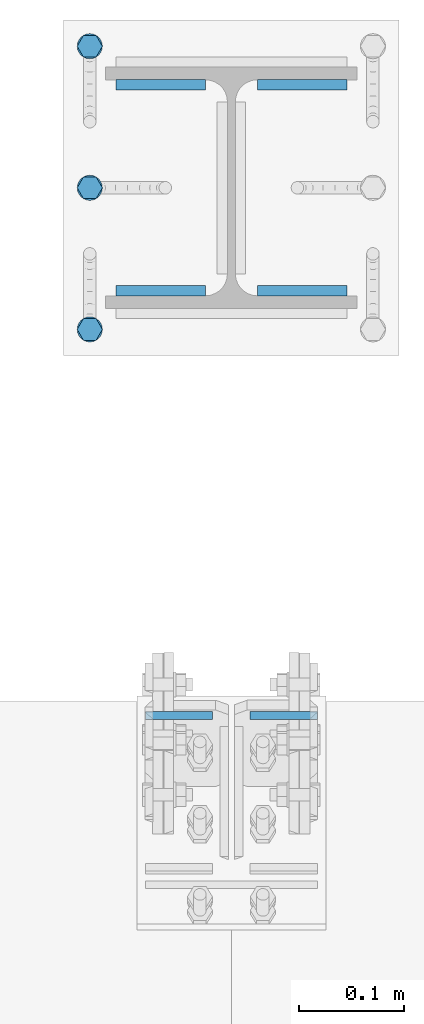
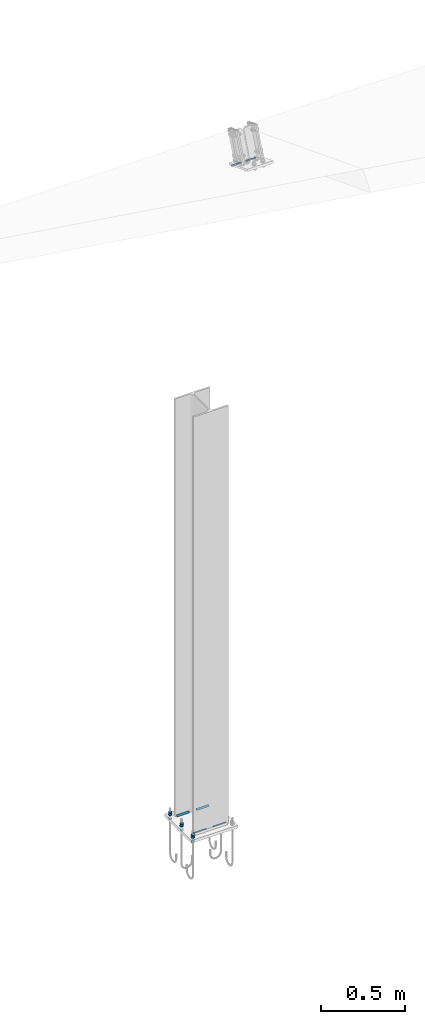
# One storey, part 50 of 72: 15 mechanical fasteners, 12 fasteners.
"""IFC4 building model written with IfcOpenShell, lengths in metres."""

from ifc_helpers import new_model, si_unit, frame, origin_with_axes, place, context, project, spatial, polyline, outline, extrude, type_object, element, save


model = new_model("IFC4")

# Units and contexts
model_context = context("Model", 3, precision=1e-05, world=origin_with_axes())
ifc_project = project(units=[si_unit("LENGTHUNIT", "METRE"), si_unit("AREAUNIT", "SQUARE_METRE"), si_unit("VOLUMEUNIT", "CUBIC_METRE"), si_unit("MASSUNIT", "GRAM", prefix="KILO"), si_unit("TIMEUNIT", "SECOND"), si_unit("PLANEANGLEUNIT", "RADIAN"), si_unit("SOLIDANGLEUNIT", "STERADIAN"), si_unit("THERMODYNAMICTEMPERATUREUNIT", "DEGREE_CELSIUS")], contexts=[model_context])

# Site, building, storey
placement_1 = place(None, origin_with_axes())
site = spatial("IfcSite", under=ifc_project, at=placement_1, Name="Italia", CompositionType="ELEMENT")
building = spatial("IfcBuilding", under=site, at=placement_1, Name="Uffici", CompositionType="ELEMENT")
storey = spatial("IfcBuildingStorey", under=building, at=placement_1, Name="Storey 0", CompositionType="ELEMENT", Elevation=0.0)

# Fasteners
fastener_type_1 = type_object("IfcFastenerType", Name="Collegamenti 0001_0101 0002_0102 0003_0103 0004_0104 0005_0105 0011_0111 0012_0112 0013_0113 0014_0114 0015_0115", PredefinedType="WELD")
placement_2 = place(placement_1, origin_with_axes())
fastener_1_placement = place(placement_2, origin_with_axes())
element("IfcFastener", 1, at=fastener_1_placement, inside=storey, type_object=fastener_type_1, Name="Collegamenti 0001_0101 0002_0102 0003_0103 0004_0104 0005_0105 0011_0111 0012_0112 0013_0113 0014_0114 0015_0115", context=model_context, shape_type="SweptSolid", body=[
    extrude(outline(polyline([(0.0, 0.0), (0.00986814, 0.0101734), (0.00986814, 0.0), (0.0, 0.0)])), frame((6.7797, 5.48318, 0.01995), z_axis=(1.0, 0.0, 0.0), x_axis=(0.0, 1.0, 0.0)), (0.0, 0.0, 1.0), 0.08535),
])
fastener_type_2 = type_object("IfcFastenerType", Name="Collegamenti 0001_0101 0002_0102 0003_0103 0004_0104 0005_0105 0011_0111 0012_0112 0013_0113 0014_0114 0015_0115", PredefinedType="WELD")
fastener_2_placement = place(placement_2, origin_with_axes())
element("IfcFastener", 2, at=fastener_2_placement, inside=storey, type_object=fastener_type_2, Name="Collegamenti 0001_0101 0002_0102 0003_0103 0004_0104 0005_0105 0011_0111 0012_0112 0013_0113 0014_0114 0015_0115", context=model_context, shape_type="SweptSolid", body=[
    extrude(outline(polyline([(0.0, 0.0), (0.00986814, 0.0101734), (0.00986814, 0.0), (0.0, 0.0)])), frame((6.86505, 5.29682, 0.01995), z_axis=(-1.0, 0.0, 0.0), x_axis=(0.0, -1.0, 0.0)), (0.0, 0.0, 1.0), 0.08535),
])
fastener_type_3 = type_object("IfcFastenerType", Name="Collegamenti 0001_0101 0002_0102 0003_0103 0004_0104 0005_0105 0011_0111 0012_0112 0013_0113 0014_0114 0015_0115", PredefinedType="WELD")
fastener_3_placement = place(placement_2, origin_with_axes())
element("IfcFastener", 3, at=fastener_3_placement, inside=storey, type_object=fastener_type_3, Name="Collegamenti 0001_0101 0002_0102 0003_0103 0004_0104 0005_0105 0011_0111 0012_0112 0013_0113 0014_0114 0015_0115", context=model_context, shape_type="SweptSolid", body=[
    extrude(outline(polyline([(0.0, 0.0), (0.00986814, 0.0101734), (0.00986814, 0.0), (0.0, 0.0)])), frame((6.7303, 5.29682, 0.01995), z_axis=(-1.0, 0.0, 0.0), x_axis=(0.0, -1.0, 0.0)), (0.0, 0.0, 1.0), 0.08535),
])
fastener_type_4 = type_object("IfcFastenerType", Name="Collegamenti 0001_0101 0002_0102 0003_0103 0004_0104 0005_0105 0011_0111 0012_0112 0013_0113 0014_0114 0015_0115", PredefinedType="WELD")
fastener_4_placement = place(placement_2, origin_with_axes())
element("IfcFastener", 4, at=fastener_4_placement, inside=storey, type_object=fastener_type_4, Name="Collegamenti 0001_0101 0002_0102 0003_0103 0004_0104 0005_0105 0011_0111 0012_0112 0013_0113 0014_0114 0015_0115", context=model_context, shape_type="SweptSolid", body=[
    extrude(outline(polyline([(0.0, 0.0), (0.00986814, 0.0101734), (0.00986814, 0.0), (0.0, 0.0)])), frame((6.64495, 5.48318, 0.01995), z_axis=(1.0, 0.0, 0.0), x_axis=(0.0, 1.0, 0.0)), (0.0, 0.0, 1.0), 0.08535),
])
fastener_type_5 = type_object("IfcFastenerType", Name="Collegamenti 0001_0101 0002_0102 0003_0103 0004_0104 0005_0105 0011_0111 0012_0112 0013_0113 0014_0114 0015_0115", PredefinedType="WELD")
fastener_5_placement = place(placement_2, origin_with_axes())
element("IfcFastener", 5, at=fastener_5_placement, inside=storey, type_object=fastener_type_5, Name="Collegamenti 0001_0101 0002_0102 0003_0103 0004_0104 0005_0105 0011_0111 0012_0112 0013_0113 0014_0114 0015_0115", context=model_context, shape_type="SweptSolid", body=[
    extrude(outline(polyline([(0.0, 0.0), (0.00986814, 0.0101734), (0.00986814, 0.0), (0.0, 0.0)])), frame((6.7797, 5.48318, 0.01995), z_axis=(1.0, 0.0, 0.0), x_axis=(0.0, 1.0, 0.0)), (0.0, 0.0, 1.0), 0.08535),
])
fastener_type_6 = type_object("IfcFastenerType", Name="Collegamenti 0001_0101 0002_0102 0003_0103 0004_0104 0005_0105 0011_0111 0012_0112 0013_0113 0014_0114 0015_0115", PredefinedType="WELD")
fastener_6_placement = place(placement_2, origin_with_axes())
element("IfcFastener", 6, at=fastener_6_placement, inside=storey, type_object=fastener_type_6, Name="Collegamenti 0001_0101 0002_0102 0003_0103 0004_0104 0005_0105 0011_0111 0012_0112 0013_0113 0014_0114 0015_0115", context=model_context, shape_type="SweptSolid", body=[
    extrude(outline(polyline([(0.0, 0.0), (0.00986814, 0.0101734), (0.00986814, 0.0), (0.0, 0.0)])), frame((6.86505, 5.29682, 0.01995), z_axis=(-1.0, 0.0, 0.0), x_axis=(0.0, -1.0, 0.0)), (0.0, 0.0, 1.0), 0.08535),
])
fastener_type_7 = type_object("IfcFastenerType", Name="Collegamenti 0001_0101 0002_0102 0003_0103 0004_0104 0005_0105 0011_0111 0012_0112 0013_0113 0014_0114 0015_0115", PredefinedType="WELD")
fastener_7_placement = place(placement_2, origin_with_axes())
element("IfcFastener", 7, at=fastener_7_placement, inside=storey, type_object=fastener_type_7, Name="Collegamenti 0001_0101 0002_0102 0003_0103 0004_0104 0005_0105 0011_0111 0012_0112 0013_0113 0014_0114 0015_0115", context=model_context, shape_type="SweptSolid", body=[
    extrude(outline(polyline([(0.0, 0.0), (0.00986814, 0.0101734), (0.00986814, 0.0), (0.0, 0.0)])), frame((6.7303, 5.29682, 0.01995), z_axis=(-1.0, 0.0, 0.0), x_axis=(0.0, -1.0, 0.0)), (0.0, 0.0, 1.0), 0.08535),
])
fastener_type_8 = type_object("IfcFastenerType", Name="Collegamenti 0001_0101 0002_0102 0003_0103 0004_0104 0005_0105 0011_0111 0012_0112 0013_0113 0014_0114 0015_0115", PredefinedType="WELD")
fastener_8_placement = place(placement_2, origin_with_axes())
element("IfcFastener", 8, at=fastener_8_placement, inside=storey, type_object=fastener_type_8, Name="Collegamenti 0001_0101 0002_0102 0003_0103 0004_0104 0005_0105 0011_0111 0012_0112 0013_0113 0014_0114 0015_0115", context=model_context, shape_type="SweptSolid", body=[
    extrude(outline(polyline([(0.0, 0.0), (0.00986814, 0.0101734), (0.00986814, 0.0), (0.0, 0.0)])), frame((6.64495, 5.48318, 0.01995), z_axis=(1.0, 0.0, 0.0), x_axis=(0.0, 1.0, 0.0)), (0.0, 0.0, 1.0), 0.08535),
])

# Mechanical fasteners
mechanical_fastener_type_1 = type_object("IfcMechanicalFastenerType", Name="Collegamenti 0001_0101 0002_0102 0003_0103 0004_0104 0005_0105 0011_0111 0012_0112 0013_0113 0014_0114 0015_0115", PredefinedType="BOLT")
mechanical_fastener_1_placement = place(placement_2, origin_with_axes())
element("IfcMechanicalFastener", 9, at=mechanical_fastener_1_placement, inside=storey, type_object=mechanical_fastener_type_1, Name="Collegamenti 0001_0101 0002_0102 0003_0103 0004_0104 0005_0105 0011_0111 0012_0112 0013_0113 0014_0114 0015_0115", NominalDiameter=0.0119996, context=model_context, shape_type="SweptSolid", body=[
    extrude(outline(polyline([(0.0, 0.0), (0.0, 0.0119996), (0.0103922, 0.0179996), (0.0207849, 0.0119996), (0.0207849, 0.0), (0.0103922, -0.00600004), (0.0, 0.0)])), frame((6.626, 5.24461, 0.022), z_axis=(0.0, 0.0, 1.0), x_axis=(0.0, 1.0, 0.0)), (0.0, 0.0, 1.0), 0.0096),
])
mechanical_fastener_type_2 = type_object("IfcMechanicalFastenerType", Name="Collegamenti 0001_0101 0002_0102 0003_0103 0004_0104 0005_0105 0011_0111 0012_0112 0013_0113 0014_0114 0015_0115", PredefinedType="BOLT")
mechanical_fastener_2_placement = place(placement_2, origin_with_axes())
element("IfcMechanicalFastener", 10, at=mechanical_fastener_2_placement, inside=storey, type_object=mechanical_fastener_type_2, Name="Collegamenti 0001_0101 0002_0102 0003_0103 0004_0104 0005_0105 0011_0111 0012_0112 0013_0113 0014_0114 0015_0115", NominalDiameter=0.0119996, context=model_context, shape_type="SweptSolid", body=[
    extrude(outline(polyline([(0.0, 0.0), (0.0, 0.0119996), (0.0103922, 0.0179996), (0.0207849, 0.0119996), (0.0207849, 0.0), (0.0103922, -0.00600004), (0.0, 0.0)])), frame((6.626, 5.24461, 0.0316), z_axis=(0.0, 0.0, 1.0), x_axis=(0.0, 1.0, 0.0)), (0.0, 0.0, 1.0), 0.0096),
])
mechanical_fastener_type_3 = type_object("IfcMechanicalFastenerType", Name="Collegamenti 0001_0101 0002_0102 0003_0103 0004_0104 0005_0105 0011_0111 0012_0112 0013_0113 0014_0114 0015_0115", PredefinedType="BOLT")
mechanical_fastener_3_placement = place(placement_2, origin_with_axes())
element("IfcMechanicalFastener", 11, at=mechanical_fastener_3_placement, inside=storey, type_object=mechanical_fastener_type_3, Name="Collegamenti 0001_0101 0002_0102 0003_0103 0004_0104 0005_0105 0011_0111 0012_0112 0013_0113 0014_0114 0015_0115", NominalDiameter=0.0119996, context=model_context, shape_type="SweptSolid", body=[
    extrude(outline(polyline([(0.0, 0.0), (0.0, 0.0119996), (0.0103922, 0.0179996), (0.0207849, 0.0119996), (0.0207849, 0.0), (0.0103922, -0.00600004), (0.0, 0.0)])), frame((6.626, 5.24461, -0.0116), z_axis=(0.0, 0.0, 1.0), x_axis=(0.0, 1.0, 0.0)), (0.0, 0.0, 1.0), 0.0096),
])
mechanical_fastener_type_4 = type_object("IfcMechanicalFastenerType", Name="Collegamenti 0001_0101 0002_0102 0003_0103 0004_0104 0005_0105 0011_0111 0012_0112 0013_0113 0014_0114 0015_0115", PredefinedType="BOLT")
mechanical_fastener_4_placement = place(placement_2, origin_with_axes())
element("IfcMechanicalFastener", 12, at=mechanical_fastener_4_placement, inside=storey, type_object=mechanical_fastener_type_4, Name="Collegamenti 0001_0101 0002_0102 0003_0103 0004_0104 0005_0105 0011_0111 0012_0112 0013_0113 0014_0114 0015_0115", NominalDiameter=0.024, context=model_context, shape_type="SweptSolid", body=[
    extrude(outline(polyline([(0.0, 0.0), (-0.000409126, -0.00310564), (-0.00160789, -0.00600004), (-0.00351477, -0.00848532), (-0.00600004, -0.0103922), (-0.00889444, -0.011591), (-0.0120001, -0.0120001), (-0.0151057, -0.011591), (-0.0180001, -0.0103922), (-0.0204854, -0.00848532), (-0.0223923, -0.00600004), (-0.023591, -0.00310564), (-0.0240002, 0.0), (-0.023591, 0.00310564), (-0.0223923, 0.00600004), (-0.0204854, 0.00848532), (-0.0180001, 0.0103922), (-0.0151057, 0.011591), (-0.0120001, 0.0120001), (-0.00889444, 0.011591), (-0.00600004, 0.0103922), (-0.00351477, 0.00848532), (-0.00160789, 0.00600004), (-0.000409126, 0.00310564), (0.0, 0.0)])), frame((6.62, 5.267, 0.02), z_axis=(0.0, 0.0, 1.0), x_axis=(0.0, 1.0, 0.0)), (0.0, 0.0, 1.0), 0.002),
])
mechanical_fastener_type_5 = type_object("IfcMechanicalFastenerType", Name="Collegamenti 0001_0101 0002_0102 0003_0103 0004_0104 0005_0105 0011_0111 0012_0112 0013_0113 0014_0114 0015_0115", PredefinedType="BOLT")
mechanical_fastener_5_placement = place(placement_2, origin_with_axes())
element("IfcMechanicalFastener", 13, at=mechanical_fastener_5_placement, inside=storey, type_object=mechanical_fastener_type_5, Name="Collegamenti 0001_0101 0002_0102 0003_0103 0004_0104 0005_0105 0011_0111 0012_0112 0013_0113 0014_0114 0015_0115", NominalDiameter=0.024, context=model_context, shape_type="SweptSolid", body=[
    extrude(outline(polyline([(0.0, 0.0), (-0.000409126, -0.00310564), (-0.00160789, -0.00600004), (-0.00351477, -0.00848532), (-0.00600004, -0.0103922), (-0.00889444, -0.011591), (-0.0120001, -0.0120001), (-0.0151057, -0.011591), (-0.0180001, -0.0103922), (-0.0204854, -0.00848532), (-0.0223923, -0.00600004), (-0.023591, -0.00310564), (-0.0240002, 0.0), (-0.023591, 0.00310564), (-0.0223923, 0.00600004), (-0.0204854, 0.00848532), (-0.0180001, 0.0103922), (-0.0151057, 0.011591), (-0.0120001, 0.0120001), (-0.00889444, 0.011591), (-0.00600004, 0.0103922), (-0.00351477, 0.00848532), (-0.00160789, 0.00600004), (-0.000409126, 0.00310564), (0.0, 0.0)])), frame((6.62, 5.267, -0.002), z_axis=(0.0, 0.0, 1.0), x_axis=(0.0, 1.0, 0.0)), (0.0, 0.0, 1.0), 0.002),
])
mechanical_fastener_type_6 = type_object("IfcMechanicalFastenerType", Name="Collegamenti 0001_0101 0002_0102 0003_0103 0004_0104 0005_0105 0011_0111 0012_0112 0013_0113 0014_0114 0015_0115", PredefinedType="BOLT")
mechanical_fastener_6_placement = place(placement_2, origin_with_axes())
element("IfcMechanicalFastener", 14, at=mechanical_fastener_6_placement, inside=storey, type_object=mechanical_fastener_type_6, Name="Collegamenti 0001_0101 0002_0102 0003_0103 0004_0104 0005_0105 0011_0111 0012_0112 0013_0113 0014_0114 0015_0115", NominalDiameter=0.0119996, context=model_context, shape_type="SweptSolid", body=[
    extrude(outline(polyline([(0.0, 0.0), (0.0, 0.0119996), (0.0103922, 0.0179996), (0.0207844, 0.0119996), (0.0207844, 0.0), (0.0103922, -0.00600004), (0.0, 0.0)])), frame((6.626, 5.37961, 0.022), z_axis=(0.0, 0.0, 1.0), x_axis=(0.0, 1.0, 0.0)), (0.0, 0.0, 1.0), 0.0096),
])
mechanical_fastener_type_7 = type_object("IfcMechanicalFastenerType", Name="Collegamenti 0001_0101 0002_0102 0003_0103 0004_0104 0005_0105 0011_0111 0012_0112 0013_0113 0014_0114 0015_0115", PredefinedType="BOLT")
mechanical_fastener_7_placement = place(placement_2, origin_with_axes())
element("IfcMechanicalFastener", 15, at=mechanical_fastener_7_placement, inside=storey, type_object=mechanical_fastener_type_7, Name="Collegamenti 0001_0101 0002_0102 0003_0103 0004_0104 0005_0105 0011_0111 0012_0112 0013_0113 0014_0114 0015_0115", NominalDiameter=0.0119996, context=model_context, shape_type="SweptSolid", body=[
    extrude(outline(polyline([(0.0, 0.0), (0.0, 0.0119996), (0.0103922, 0.0179996), (0.0207844, 0.0119996), (0.0207844, 0.0), (0.0103922, -0.00600004), (0.0, 0.0)])), frame((6.626, 5.37961, 0.0316), z_axis=(0.0, 0.0, 1.0), x_axis=(0.0, 1.0, 0.0)), (0.0, 0.0, 1.0), 0.0096),
])
mechanical_fastener_type_8 = type_object("IfcMechanicalFastenerType", Name="Collegamenti 0001_0101 0002_0102 0003_0103 0004_0104 0005_0105 0011_0111 0012_0112 0013_0113 0014_0114 0015_0115", PredefinedType="BOLT")
mechanical_fastener_8_placement = place(placement_2, origin_with_axes())
element("IfcMechanicalFastener", 16, at=mechanical_fastener_8_placement, inside=storey, type_object=mechanical_fastener_type_8, Name="Collegamenti 0001_0101 0002_0102 0003_0103 0004_0104 0005_0105 0011_0111 0012_0112 0013_0113 0014_0114 0015_0115", NominalDiameter=0.0119996, context=model_context, shape_type="SweptSolid", body=[
    extrude(outline(polyline([(0.0, 0.0), (0.0, 0.0119996), (0.0103922, 0.0179996), (0.0207844, 0.0119996), (0.0207844, 0.0), (0.0103922, -0.00600004), (0.0, 0.0)])), frame((6.626, 5.37961, -0.0116), z_axis=(0.0, 0.0, 1.0), x_axis=(0.0, 1.0, 0.0)), (0.0, 0.0, 1.0), 0.0096),
])
mechanical_fastener_type_9 = type_object("IfcMechanicalFastenerType", Name="Collegamenti 0001_0101 0002_0102 0003_0103 0004_0104 0005_0105 0011_0111 0012_0112 0013_0113 0014_0114 0015_0115", PredefinedType="BOLT")
mechanical_fastener_9_placement = place(placement_2, origin_with_axes())
element("IfcMechanicalFastener", 17, at=mechanical_fastener_9_placement, inside=storey, type_object=mechanical_fastener_type_9, Name="Collegamenti 0001_0101 0002_0102 0003_0103 0004_0104 0005_0105 0011_0111 0012_0112 0013_0113 0014_0114 0015_0115", NominalDiameter=0.024, context=model_context, shape_type="SweptSolid", body=[
    extrude(outline(polyline([(0.0, 0.0), (-0.000409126, -0.00310564), (-0.00160789, -0.00600004), (-0.00351477, -0.00848532), (-0.00600004, -0.0103922), (-0.00889444, -0.011591), (-0.0120001, -0.0120001), (-0.0151057, -0.011591), (-0.0180001, -0.0103922), (-0.0204854, -0.00848532), (-0.0223923, -0.00600004), (-0.023591, -0.00310564), (-0.0240002, 0.0), (-0.023591, 0.00310564), (-0.0223923, 0.00600004), (-0.0204854, 0.00848532), (-0.0180001, 0.0103922), (-0.0151057, 0.011591), (-0.0120001, 0.0120001), (-0.00889444, 0.011591), (-0.00600004, 0.0103922), (-0.00351477, 0.00848532), (-0.00160789, 0.00600004), (-0.000409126, 0.00310564), (0.0, 0.0)])), frame((6.62, 5.402, 0.02), z_axis=(0.0, 0.0, 1.0), x_axis=(0.0, 1.0, 0.0)), (0.0, 0.0, 1.0), 0.002),
])
mechanical_fastener_type_10 = type_object("IfcMechanicalFastenerType", Name="Collegamenti 0001_0101 0002_0102 0003_0103 0004_0104 0005_0105 0011_0111 0012_0112 0013_0113 0014_0114 0015_0115", PredefinedType="BOLT")
mechanical_fastener_10_placement = place(placement_2, origin_with_axes())
element("IfcMechanicalFastener", 18, at=mechanical_fastener_10_placement, inside=storey, type_object=mechanical_fastener_type_10, Name="Collegamenti 0001_0101 0002_0102 0003_0103 0004_0104 0005_0105 0011_0111 0012_0112 0013_0113 0014_0114 0015_0115", NominalDiameter=0.024, context=model_context, shape_type="SweptSolid", body=[
    extrude(outline(polyline([(0.0, 0.0), (-0.000409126, -0.00310564), (-0.00160789, -0.00600004), (-0.00351477, -0.00848532), (-0.00600004, -0.0103922), (-0.00889444, -0.011591), (-0.0120001, -0.0120001), (-0.0151057, -0.011591), (-0.0180001, -0.0103922), (-0.0204854, -0.00848532), (-0.0223923, -0.00600004), (-0.023591, -0.00310564), (-0.0240002, 0.0), (-0.023591, 0.00310564), (-0.0223923, 0.00600004), (-0.0204854, 0.00848532), (-0.0180001, 0.0103922), (-0.0151057, 0.011591), (-0.0120001, 0.0120001), (-0.00889444, 0.011591), (-0.00600004, 0.0103922), (-0.00351477, 0.00848532), (-0.00160789, 0.00600004), (-0.000409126, 0.00310564), (0.0, 0.0)])), frame((6.62, 5.402, -0.002), z_axis=(0.0, 0.0, 1.0), x_axis=(0.0, 1.0, 0.0)), (0.0, 0.0, 1.0), 0.002),
])
mechanical_fastener_type_11 = type_object("IfcMechanicalFastenerType", Name="Collegamenti 0001_0101 0002_0102 0003_0103 0004_0104 0005_0105 0011_0111 0012_0112 0013_0113 0014_0114 0015_0115", PredefinedType="BOLT")
mechanical_fastener_11_placement = place(placement_2, origin_with_axes())
element("IfcMechanicalFastener", 19, at=mechanical_fastener_11_placement, inside=storey, type_object=mechanical_fastener_type_11, Name="Collegamenti 0001_0101 0002_0102 0003_0103 0004_0104 0005_0105 0011_0111 0012_0112 0013_0113 0014_0114 0015_0115", NominalDiameter=0.0119996, context=model_context, shape_type="SweptSolid", body=[
    extrude(outline(polyline([(0.0, 0.0), (0.0, 0.0119996), (0.0103927, 0.0179996), (0.0207849, 0.0119996), (0.0207849, 0.0), (0.0103927, -0.00600004), (0.0, 0.0)])), frame((6.626, 5.51461, 0.022), z_axis=(0.0, 0.0, 1.0), x_axis=(0.0, 1.0, 0.0)), (0.0, 0.0, 1.0), 0.0096),
])
mechanical_fastener_type_12 = type_object("IfcMechanicalFastenerType", Name="Collegamenti 0001_0101 0002_0102 0003_0103 0004_0104 0005_0105 0011_0111 0012_0112 0013_0113 0014_0114 0015_0115", PredefinedType="BOLT")
mechanical_fastener_12_placement = place(placement_2, origin_with_axes())
element("IfcMechanicalFastener", 20, at=mechanical_fastener_12_placement, inside=storey, type_object=mechanical_fastener_type_12, Name="Collegamenti 0001_0101 0002_0102 0003_0103 0004_0104 0005_0105 0011_0111 0012_0112 0013_0113 0014_0114 0015_0115", NominalDiameter=0.0119996, context=model_context, shape_type="SweptSolid", body=[
    extrude(outline(polyline([(0.0, 0.0), (0.0, 0.0119996), (0.0103927, 0.0179996), (0.0207849, 0.0119996), (0.0207849, 0.0), (0.0103927, -0.00600004), (0.0, 0.0)])), frame((6.626, 5.51461, 0.0316), z_axis=(0.0, 0.0, 1.0), x_axis=(0.0, 1.0, 0.0)), (0.0, 0.0, 1.0), 0.0096),
])
mechanical_fastener_type_13 = type_object("IfcMechanicalFastenerType", Name="Collegamenti 0001_0101 0002_0102 0003_0103 0004_0104 0005_0105 0011_0111 0012_0112 0013_0113 0014_0114 0015_0115", PredefinedType="BOLT")
mechanical_fastener_13_placement = place(placement_2, origin_with_axes())
element("IfcMechanicalFastener", 21, at=mechanical_fastener_13_placement, inside=storey, type_object=mechanical_fastener_type_13, Name="Collegamenti 0001_0101 0002_0102 0003_0103 0004_0104 0005_0105 0011_0111 0012_0112 0013_0113 0014_0114 0015_0115", NominalDiameter=0.0119996, context=model_context, shape_type="SweptSolid", body=[
    extrude(outline(polyline([(0.0, 0.0), (0.0, 0.0119996), (0.0103927, 0.0179996), (0.0207849, 0.0119996), (0.0207849, 0.0), (0.0103927, -0.00600004), (0.0, 0.0)])), frame((6.626, 5.51461, -0.0116), z_axis=(0.0, 0.0, 1.0), x_axis=(0.0, 1.0, 0.0)), (0.0, 0.0, 1.0), 0.0096),
])
mechanical_fastener_type_14 = type_object("IfcMechanicalFastenerType", Name="Collegamenti 0001_0101 0002_0102 0003_0103 0004_0104 0005_0105 0011_0111 0012_0112 0013_0113 0014_0114 0015_0115", PredefinedType="BOLT")
mechanical_fastener_14_placement = place(placement_2, origin_with_axes())
element("IfcMechanicalFastener", 22, at=mechanical_fastener_14_placement, inside=storey, type_object=mechanical_fastener_type_14, Name="Collegamenti 0001_0101 0002_0102 0003_0103 0004_0104 0005_0105 0011_0111 0012_0112 0013_0113 0014_0114 0015_0115", NominalDiameter=0.024, context=model_context, shape_type="SweptSolid", body=[
    extrude(outline(polyline([(0.0, 0.0), (-0.000409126, -0.00310564), (-0.00160789, -0.00600004), (-0.00351477, -0.00848532), (-0.00600004, -0.0103922), (-0.00889444, -0.011591), (-0.0120001, -0.0120001), (-0.0151057, -0.011591), (-0.0180001, -0.0103922), (-0.0204854, -0.00848532), (-0.0223923, -0.00600004), (-0.023591, -0.00310564), (-0.0240002, 0.0), (-0.023591, 0.00310564), (-0.0223923, 0.00600004), (-0.0204854, 0.00848532), (-0.0180001, 0.0103922), (-0.0151057, 0.011591), (-0.0120001, 0.0120001), (-0.00889444, 0.011591), (-0.00600004, 0.0103922), (-0.00351477, 0.00848532), (-0.00160789, 0.00600004), (-0.000409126, 0.00310564), (0.0, 0.0)])), frame((6.62, 5.537, 0.02), z_axis=(0.0, 0.0, 1.0), x_axis=(0.0, 1.0, 0.0)), (0.0, 0.0, 1.0), 0.002),
])
mechanical_fastener_type_15 = type_object("IfcMechanicalFastenerType", Name="Collegamenti 0001_0101 0002_0102 0003_0103 0004_0104 0005_0105 0011_0111 0012_0112 0013_0113 0014_0114 0015_0115", PredefinedType="BOLT")
mechanical_fastener_15_placement = place(placement_2, origin_with_axes())
element("IfcMechanicalFastener", 23, at=mechanical_fastener_15_placement, inside=storey, type_object=mechanical_fastener_type_15, Name="Collegamenti 0001_0101 0002_0102 0003_0103 0004_0104 0005_0105 0011_0111 0012_0112 0013_0113 0014_0114 0015_0115", NominalDiameter=0.024, context=model_context, shape_type="SweptSolid", body=[
    extrude(outline(polyline([(0.0, 0.0), (-0.000409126, -0.00310564), (-0.00160789, -0.00600004), (-0.00351477, -0.00848532), (-0.00600004, -0.0103922), (-0.00889444, -0.011591), (-0.0120001, -0.0120001), (-0.0151057, -0.011591), (-0.0180001, -0.0103922), (-0.0204854, -0.00848532), (-0.0223923, -0.00600004), (-0.023591, -0.00310564), (-0.0240002, 0.0), (-0.023591, 0.00310564), (-0.0223923, 0.00600004), (-0.0204854, 0.00848532), (-0.0180001, 0.0103922), (-0.0151057, 0.011591), (-0.0120001, 0.0120001), (-0.00889444, 0.011591), (-0.00600004, 0.0103922), (-0.00351477, 0.00848532), (-0.00160789, 0.00600004), (-0.000409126, 0.00310564), (0.0, 0.0)])), frame((6.62, 5.537, -0.002), z_axis=(0.0, 0.0, 1.0), x_axis=(0.0, 1.0, 0.0)), (0.0, 0.0, 1.0), 0.002),
])

# Fasteners
fastener_type_9 = type_object("IfcFastenerType", Name="Collegamento 0208_0108", PredefinedType="WELD")
fastener_9_placement = place(placement_2, origin_with_axes())
element("IfcFastener", 24, at=fastener_9_placement, inside=storey, type_object=fastener_type_9, Name="Collegamento 0208_0108", context=model_context, shape_type="SweptSolid", body=[
    extrude(outline(polyline([(0.0, 0.0), (-0.00443697, -0.0104866), (-0.00739193, -0.00286627), (0.0, 0.0)])), frame((6.83705, 4.88317, 5.09453), z_axis=(-1.0, 0.0, 0.0), x_axis=(0.0, -1.0, 0.0)), (0.0, 0.0, 1.0), 0.0641007),
])
fastener_type_10 = type_object("IfcFastenerType", Name="Collegamento 0208_0108", PredefinedType="WELD")
fastener_10_placement = place(placement_2, origin_with_axes())
element("IfcFastener", 25, at=fastener_10_placement, inside=storey, type_object=fastener_type_10, Name="Collegamento 0208_0108", context=model_context, shape_type="SweptSolid", body=[
    extrude(outline(polyline([(0.0, 0.0), (-0.00443697, -0.0104866), (-0.00739193, -0.00286627), (0.0, 0.0)])), frame((6.73705, 4.88317, 5.09453), z_axis=(-1.0, 0.0, 0.0), x_axis=(0.0, -1.0, 0.0)), (0.0, 0.0, 1.0), 0.0641007),
])
fastener_type_11 = type_object("IfcFastenerType", Name="Collegamento 0208_0108", PredefinedType="WELD")
fastener_11_placement = place(placement_2, origin_with_axes())
element("IfcFastener", 26, at=fastener_11_placement, inside=storey, type_object=fastener_type_11, Name="Collegamento 0208_0108", context=model_context, shape_type="SweptSolid", body=[
    extrude(outline(polyline([(0.0, 0.0), (-0.00443697, -0.0104866), (-0.00739193, -0.00286627), (0.0, 0.0)])), frame((6.83705, 4.88317, 5.09453), z_axis=(-1.0, 0.0, 0.0), x_axis=(0.0, -1.0, 0.0)), (0.0, 0.0, 1.0), 0.0641007),
])
fastener_type_12 = type_object("IfcFastenerType", Name="Collegamento 0208_0108", PredefinedType="WELD")
fastener_12_placement = place(placement_2, origin_with_axes())
element("IfcFastener", 27, at=fastener_12_placement, inside=storey, type_object=fastener_type_12, Name="Collegamento 0208_0108", context=model_context, shape_type="SweptSolid", body=[
    extrude(outline(polyline([(0.0, 0.0), (-0.00443697, -0.0104866), (-0.00739193, -0.00286627), (0.0, 0.0)])), frame((6.73705, 4.88317, 5.09453), z_axis=(-1.0, 0.0, 0.0), x_axis=(0.0, -1.0, 0.0)), (0.0, 0.0, 1.0), 0.0641007),
])

save(model, "model.ifc")
